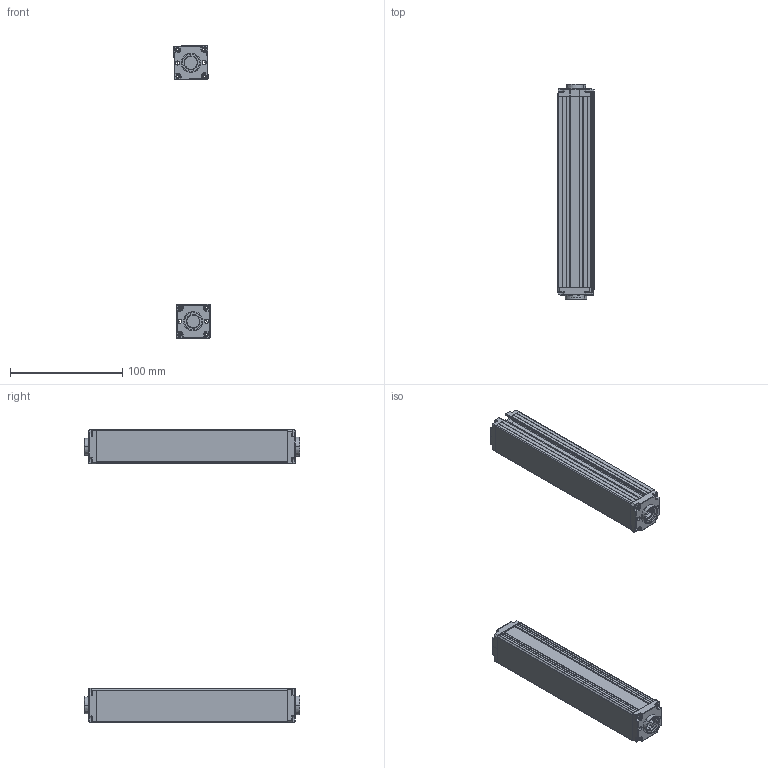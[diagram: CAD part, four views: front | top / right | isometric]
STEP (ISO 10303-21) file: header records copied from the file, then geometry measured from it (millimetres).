
FILE_DESCRIPTION (( 'STEP AP203' ), '1' );
FILE_NAME ('ZDA0820-170.STEP', '2022-08-30T07:25:15', ( 'Windows 蚚誧' ), ( 'Organization' ), 'SwSTEP 2.0', 'SolidWorks 2020', '' );
FILE_SCHEMA (( 'CONFIG_CONTROL_DESIGN' ));
Length unit declared in the file: millimetre
Products named in the file (5): 錨璃1; 錨璃8; 錨璃10; 錨璃8 - 萵掛 (2); ZDA0820-170
Assembly tree (8 placements, depth 2):
  ZDA0820-170
    錨璃1  x2
    錨璃8  x2
    錨璃8 - 萵掛 (2)  x2
    錨璃10  x2
Bounding box: 32.36 x 191.4 x 260.35 mm (x, y, z)
Volume: 117700.8 mm3; surface area: 127373.5 mm2
Topology: 8 solids, 8 shells, 1032 faces, 2690 edges, 1668 vertices
Faces by surface type: plane 464, cylinder 310, cone 120, bspline 58, torus 48, sphere 32
Entity records: 17901 total; most frequent: CARTESIAN_POINT 4731, ORIENTED_EDGE 2666, DIRECTION 2616, EDGE_CURVE 1333, AXIS2_PLACEMENT_3D 894, VERTEX_POINT 834, VECTOR 828, LINE 828
